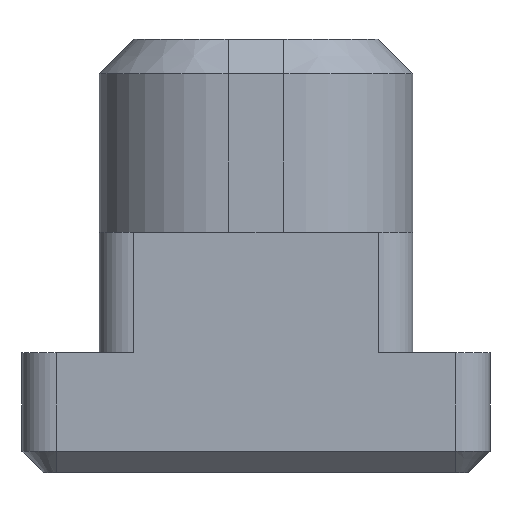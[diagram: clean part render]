
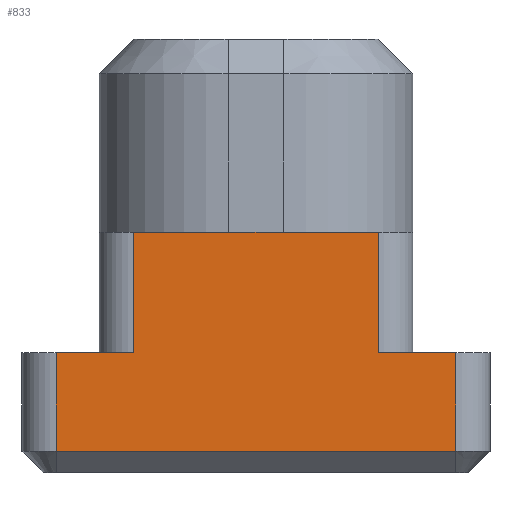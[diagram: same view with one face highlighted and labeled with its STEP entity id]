
A CAD part, front view. The second image highlights one B-rep face of the part: STEP entity #833.
In plain terms, the highlighted planar face has unit normal (0, -1, 0).
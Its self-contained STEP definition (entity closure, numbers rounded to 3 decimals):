
#127=DIRECTION('',(-1.,0.,0.));
#128=VECTOR('',#127,1.8);
#129=CARTESIAN_POINT('',(4.55,-59.75,-2.8));
#130=LINE('',#129,#128);
#145=DIRECTION('',(-1.,0.,0.));
#146=VECTOR('',#145,1.8);
#147=CARTESIAN_POINT('',(-2.95,-59.75,-2.8));
#148=LINE('',#147,#146);
#163=DIRECTION('',(1.,0.,0.));
#164=VECTOR('',#163,9.3);
#165=CARTESIAN_POINT('',(-4.75,-59.75,
-5.1));
#166=LINE('',#165,#164);
#167=DIRECTION('',(0.,0.,1.));
#168=VECTOR('',#167,2.3);
#169=CARTESIAN_POINT('',(-4.75,-59.75,
-5.1));
#170=LINE('',#169,#168);
#171=DIRECTION('',(0.,0.,-1.));
#172=VECTOR('',#171,2.8);
#173=CARTESIAN_POINT('',(-2.95,-59.75,0.));
#174=LINE('',#173,#172);
#175=DIRECTION('',(1.,0.,0.));
#176=VECTOR('',#175,5.7);
#177=CARTESIAN_POINT('',(-2.95,-59.75,0.));
#178=LINE('',#177,#176);
#179=DIRECTION('',(0.,0.,1.));
#180=VECTOR('',#179,2.8);
#181=CARTESIAN_POINT('',(2.75,-59.75,-2.8));
#182=LINE('',#181,#180);
#183=DIRECTION('',(0.,0.,1.));
#184=VECTOR('',#183,2.3);
#185=CARTESIAN_POINT('',(4.55,-59.75,-5.1));
#186=LINE('',#185,#184);
#471=CARTESIAN_POINT('',(2.75,-59.75,0.));
#473=VERTEX_POINT('',#471);
#476=CARTESIAN_POINT('',(-2.95,-59.75,0.));
#478=VERTEX_POINT('',#476);
#503=CARTESIAN_POINT('',(4.55,-59.75,-2.8));
#505=VERTEX_POINT('',#503);
#508=CARTESIAN_POINT('',(-4.75,-59.75,-2.8));
#510=VERTEX_POINT('',#508);
#515=CARTESIAN_POINT('',(2.75,-59.75,-2.8));
#516=VERTEX_POINT('',#515);
#517=CARTESIAN_POINT('',(-2.95,-59.75,-2.8));
#518=VERTEX_POINT('',#517);
#560=CARTESIAN_POINT('',(-4.75,-59.75,-5.1));
#562=VERTEX_POINT('',#560);
#567=CARTESIAN_POINT('',(4.55,-59.75,-5.1));
#568=VERTEX_POINT('',#567);
#813=CARTESIAN_POINT('',(0.,-59.75,0.));
#814=DIRECTION('',(0.,1.,0.));
#815=DIRECTION('',(-1.,0.,0.));
#816=AXIS2_PLACEMENT_3D('',#813,#814,#815);
#817=PLANE('',#816);
#819=ORIENTED_EDGE('',*,*,#818,.F.);
#821=ORIENTED_EDGE('',*,*,#820,.T.);
#822=ORIENTED_EDGE('',*,*,#799,.F.);
#824=ORIENTED_EDGE('',*,*,#823,.F.);
#825=ORIENTED_EDGE('',*,*,#616,.T.);
#827=ORIENTED_EDGE('',*,*,#826,.F.);
#828=ORIENTED_EDGE('',*,*,#772,.F.);
#830=ORIENTED_EDGE('',*,*,#829,.F.);
#831=EDGE_LOOP('',(#819,#821,#822,#824,#825,#827,#828,#830));
#832=FACE_OUTER_BOUND('',#831,.F.);
#833=ADVANCED_FACE('',(#832),#817,.F.);
#616=EDGE_CURVE('',#478,#473,#178,.T.);
#772=EDGE_CURVE('',#505,#516,#130,.T.);
#799=EDGE_CURVE('',#518,#510,#148,.T.);
#818=EDGE_CURVE('',#562,#568,#166,.T.);
#820=EDGE_CURVE('',#562,#510,#170,.T.);
#823=EDGE_CURVE('',#478,#518,#174,.T.);
#826=EDGE_CURVE('',#516,#473,#182,.T.);
#829=EDGE_CURVE('',#568,#505,#186,.T.);
